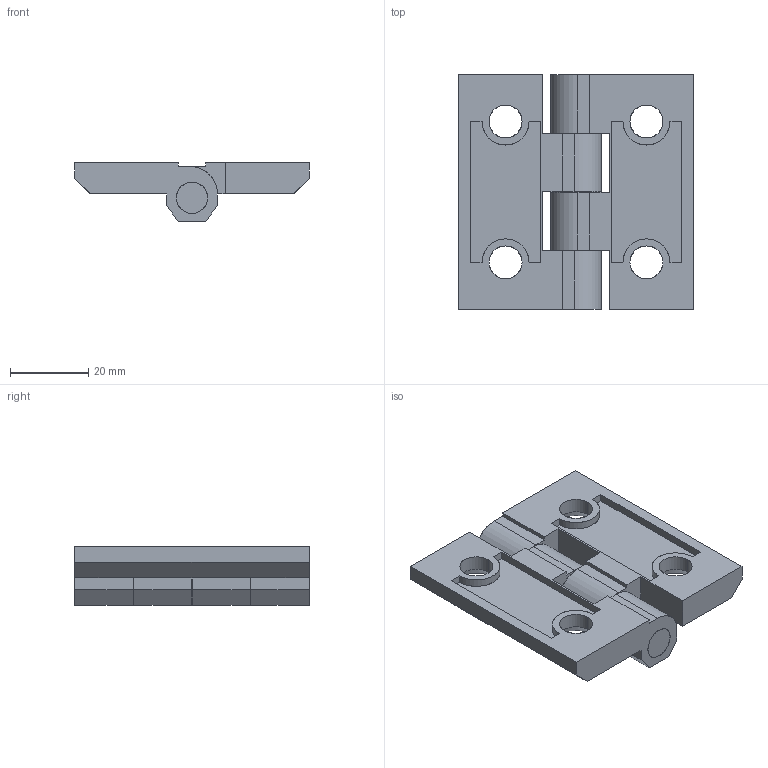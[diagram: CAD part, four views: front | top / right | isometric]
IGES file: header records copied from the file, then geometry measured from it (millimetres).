
Start section: SolidWorks IGES file using analytic representation for surfaces
Global section: file name: C:\Documents and Settings\Deathkiller\桌面\由鑫有限公司 TAISAM Corporation\3D IGES\鉸鏈 HINGES\CL-226 series\226-1.IGS; native system: SolidWorks 2008; preprocessor: SolidWorks 2008; author: Deathkiller; date: 080922.104437; units: millimetre
Bounding box: 60 x 60 x 15 mm (x, y, z)
Surface area: 14511 mm2 (no closed solid volume)
Topology: 0 solids, 0 shells, 100 faces, 1284 edges, 1284 vertices
Faces by surface type: bspline 66, revolution 34
